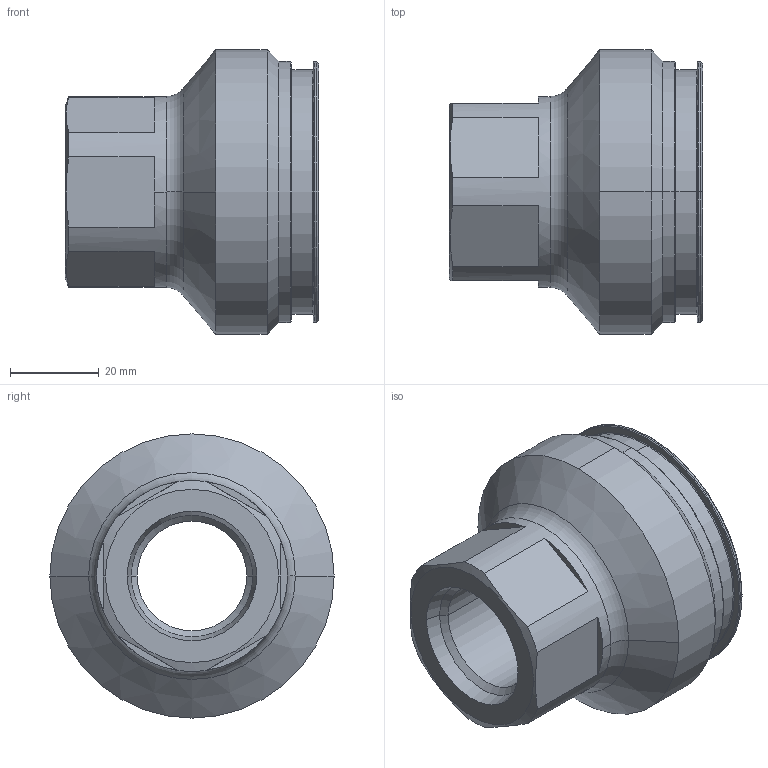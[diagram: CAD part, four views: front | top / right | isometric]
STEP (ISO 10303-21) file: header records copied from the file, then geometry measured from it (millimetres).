
FILE_DESCRIPTION((''),'2;1');
FILE_NAME('47010895','2025-11-14T10:31:03',('p.max'),(''),'CREO PARAMETRIC BY PTC INC, 2023254','CREO PARAMETRIC BY PTC INC, 2023254','');
FILE_SCHEMA(('AUTOMOTIVE_DESIGN { 1 0 10303 214 1 1 1 1 }'));
Length unit declared in the file: millimetre
Products named in the file (1): 47010895
Bounding box: 57 x 64 x 64 mm (x, y, z)
Volume: 56234.9 mm3; surface area: 19602 mm2
Topology: 1 solids, 1 shells, 62 faces, 140 edges, 84 vertices
Faces by surface type: plane 18, cone 16, cylinder 16, torus 12
Entity records: 2297 total; most frequent: CARTESIAN_POINT 338, DIRECTION 338, ORIENTED_EDGE 280, AXIS2_PLACEMENT_3D 144, PRESENTATION_STYLE_ASSIGNMENT 141, STYLED_ITEM 141, CURVE_STYLE 140, EDGE_CURVE 140
